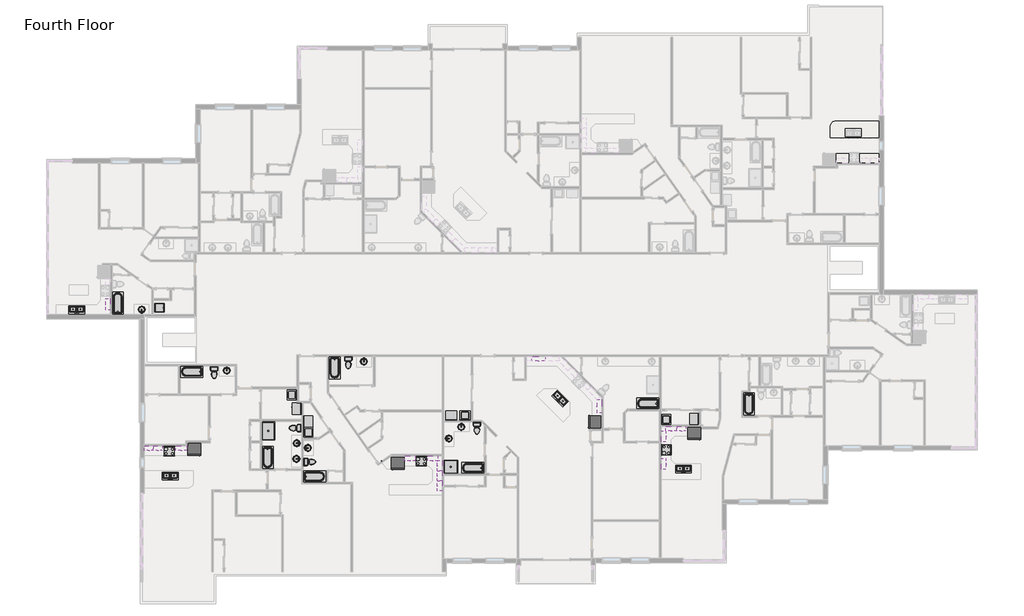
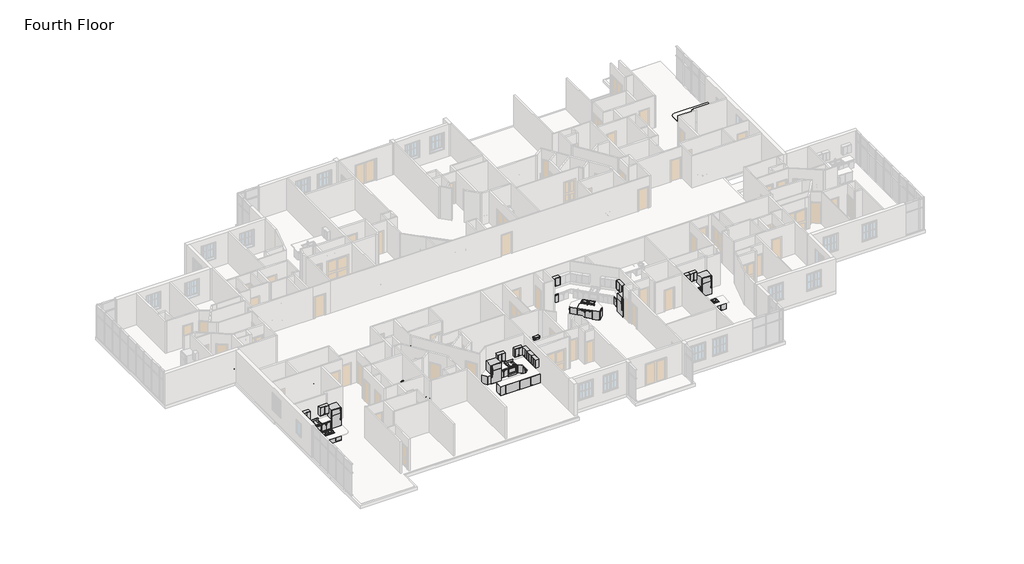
# One storey, part 14 of 17: 63 furniture elements, 27 flow terminals, 16 proxies, 2 slabs.
"""IFC4 building model written with IfcOpenShell, lengths in millimetres."""

from ifc_helpers import new_model, si_unit, point, frame, frame_2d, origin, place, context, project, spatial, polyline, circle_curve, trimmed, segment, composite_curve, outline, extrude, transform, mapped, element, save
from components import proxy_6b4a07a9, proxy_fbb4c072, proxy_93150df1, proxy_9109806d, proxy_718fa39f, proxy_f3e01b1d, flow_terminal_54cced83, flow_terminal_5dba0d75, flow_terminal_a53be723, flow_terminal_d49f872f, toilet_domestic_3d_toilet_domestic_3d_f7549cf7, toilet_domestic_3d_toilet_domestic_3d_183bbd19, tub_rectangular_3d_tub_rectangular_3d_72a4d900, tub_rectangular_3d_tub_rectangular_3d_cbc2c449, furniture_0fc2bd2a, furniture_337523c0, furniture_6e8794dd, furniture_07bc9410, furniture_6ace90bf, furniture_b282fead, furniture_6a014568, furniture_338da5bd, furniture_b74d3f52, furniture_7de88fd5, furniture_695a55eb, furniture_b6fbc004, furniture_b4094f2d, furniture_07c0da44, furniture_bfd559e3, base_cabinet_filler_base_cabinet_filler_dff9ed13, base_cabinet_filler_base_cabinet_filler_01d9e414, base_cabinet_filler_base_cabinet_filler_890d7b95, base_cabinet_filler_base_cabinet_filler_ec835e29, base_cabinet_filler_base_cabinet_filler_83579e99, base_cabinet_filler_base_cabinet_filler_783ad0b1, base_cabinet_filler_base_cabinet_filler_ca2a3ea1, furniture_de2c603d, furniture_a8c34398, furniture_09d05a5b, furniture_b1f16c95, furniture_c6a3367d, furniture_9117db5d, furniture_b34976c1

model = new_model("IFC4")

# Units and contexts
model_context = context("Model", 3, world=origin())
ifc_project = project(units=[si_unit("LENGTHUNIT", "METRE", prefix="MILLI")], contexts=[model_context])

# Site, building, storey
site = spatial("IfcSite", under=ifc_project)
building = spatial("IfcBuilding", under=site)
storey = spatial("IfcBuildingStorey", under=building, Name="Fourth Floor", Elevation=9144.0)

# Proxies
placement = place(None, origin())
proxy_shape = proxy_6b4a07a9(model_context)
element("IfcBuildingElementProxy", 1, Name="Dryer : 30\" x 25\" x 35\"", ObjectType="Dryer : 30\" x 25\" x 35\"", at=placement, inside=storey, context=model_context, shape_type="MappedRepresentation", body=[
    mapped(proxy_shape, transform((44173.5487851, -8537.825475, 9144.0), x_axis=(0.0, -1.0, 0.0), y_axis=(1.0, 0.0, 0.0), z_axis=(0.0, 0.0, 1.0))),
])
element("IfcBuildingElementProxy", 2, Name="Dryer : 30\" x 25\" x 35\"", ObjectType="Dryer : 30\" x 25\" x 35\"", at=placement, inside=storey, context=model_context, shape_type="MappedRepresentation", body=[
    mapped(proxy_shape, transform((28406.7740425, -8419.0812648, 9144.0), x_axis=(-1.0, 0.0, 0.0), y_axis=(0.0, -1.0, 0.0), z_axis=(0.0, 0.0, 1.0))),
])
element("IfcBuildingElementProxy", 3, Name="Dryer : 30\" x 25\" x 35\"", ObjectType="Dryer : 30\" x 25\" x 35\"", at=placement, inside=storey, context=model_context, shape_type="MappedRepresentation", body=[
    mapped(proxy_shape, transform((18584.1801376, -9524.4003876, 9144.0), x_axis=(0.0, 1.0, 0.0), y_axis=(-1.0, 0.0, 0.0), z_axis=(0.0, 0.0, 1.0))),
])
element("IfcBuildingElementProxy", 4, Name="Dryer : 30\" x 25\" x 35\"", ObjectType="Dryer : 30\" x 25\" x 35\"", at=placement, inside=storey, context=model_context, shape_type="MappedRepresentation", body=[
    mapped(proxy_shape, transform((17205.55813, -7837.3845163, 9144.0), x_axis=(0.0, -1.0, 0.0), y_axis=(1.0, 0.0, 0.0), z_axis=(0.0, 0.0, 1.0))),
])
proxy_2_shape = proxy_fbb4c072(model_context)
element("IfcBuildingElementProxy", 5, Name="Range : 30\" x 26\"", ObjectType="Range : 30\" x 26\"", at=placement, inside=storey, context=model_context, shape_type="MappedRepresentation", body=[
    mapped(proxy_2_shape, transform((8484.0058728, -11454.5493344, 9144.0), x_axis=(1.0, 0.0, 0.0), y_axis=(0.0, 1.0, 0.0), z_axis=(0.0, 0.0, 1.0))),
])
element("IfcBuildingElementProxy", 6, Name="Range : 30\" x 26\"", ObjectType="Range : 30\" x 26\"", at=placement, inside=storey, context=model_context, shape_type="MappedRepresentation", body=[
    mapped(proxy_2_shape, transform((25568.0760465, -12129.3236347, 9144.0), x_axis=(1.0, 0.0, 0.0), y_axis=(0.0, 1.0, 0.0), z_axis=(0.0, 0.0, 1.0))),
])
element("IfcBuildingElementProxy", 7, Name="Range : 30\" x 26\"", ObjectType="Range : 30\" x 26\"", at=placement, inside=storey, context=model_context, shape_type="MappedRepresentation", body=[
    mapped(proxy_2_shape, transform((42884.6470292, -11433.5876998, 9144.0), x_axis=(0.0, 1.0, 0.0), y_axis=(-1.0, 0.0, 0.0), z_axis=(0.0, 0.0, 1.0))),
])
proxy_3_shape = proxy_93150df1(model_context)
element("IfcBuildingElementProxy", 8, Name="Refrigerator : 35\" x 32\" LH", ObjectType="Refrigerator : 35\" x 32\" LH", at=placement, inside=storey, context=model_context, shape_type="MappedRepresentation", body=[
    mapped(proxy_3_shape, transform((24373.0696169, -11939.5714882, 9144.0), x_axis=(1.0, 0.0, 0.0), y_axis=(0.0, 1.0, 0.0), z_axis=(0.0, 0.0, 1.0))),
])
proxy_4_shape = proxy_9109806d(model_context)
element("IfcBuildingElementProxy", 9, Name="Refrigerator : 35\" x 32\" RH", ObjectType="Refrigerator : 35\" x 32\" RH", at=placement, inside=storey, context=model_context, shape_type="MappedRepresentation", body=[
    mapped(proxy_4_shape, transform((10565.2183728, -10998.1775997, 9144.0), x_axis=(1.0, 0.0, 0.0), y_axis=(0.0, 1.0, 0.0), z_axis=(0.0, 0.0, 1.0))),
])
element("IfcBuildingElementProxy", 10, Name="Refrigerator : 35\" x 32\" RH", ObjectType="Refrigerator : 35\" x 32\" RH", at=placement, inside=storey, context=model_context, shape_type="MappedRepresentation", body=[
    mapped(proxy_4_shape, transform((37739.4505062, -9160.9400492, 9144.0), x_axis=(-0.0020172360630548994, -0.9999979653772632, 0.0), y_axis=(0.9999979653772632, -0.0020172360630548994, 0.0), z_axis=(0.0, 0.0, 1.0))),
])
element("IfcBuildingElementProxy", 11, Name="Refrigerator : 35\" x 32\" RH", ObjectType="Refrigerator : 35\" x 32\" RH", at=placement, inside=storey, context=model_context, shape_type="MappedRepresentation", body=[
    mapped(proxy_4_shape, transform((44469.7001082, -9909.0410777, 9144.0), x_axis=(1.0, 0.0, 0.0), y_axis=(0.0, 1.0, 0.0), z_axis=(0.0, 0.0, 1.0))),
])
proxy_5_shape = proxy_718fa39f(model_context)
element("IfcBuildingElementProxy", 12, Name="Washer : 27\" x 25\" x 35\"", ObjectType="Washer : 27\" x 25\" x 35\"", at=placement, inside=storey, context=model_context, shape_type="MappedRepresentation", body=[
    mapped(proxy_5_shape, transform((42820.896594, -9415.6051683, 9144.0), x_axis=(0.0, 1.0, 0.0), y_axis=(-1.0, 0.0, 0.0), z_axis=(0.0, 0.0, 1.0))),
])
element("IfcBuildingElementProxy", 13, Name="Washer : 27\" x 25\" x 35\"", ObjectType="Washer : 27\" x 25\" x 35\"", at=placement, inside=storey, context=model_context, shape_type="MappedRepresentation", body=[
    mapped(proxy_5_shape, transform((29345.0797218, -8454.5927038, 9144.0), x_axis=(-1.0, 0.0, 0.0), y_axis=(0.0, -1.0, 0.0), z_axis=(0.0, 0.0, 1.0))),
])
element("IfcBuildingElementProxy", 14, Name="Washer : 27\" x 25\" x 35\"", ObjectType="Washer : 27\" x 25\" x 35\"", at=placement, inside=storey, context=model_context, shape_type="MappedRepresentation", body=[
    mapped(proxy_5_shape, transform((16924.7421343, -6896.1954628, 9144.0), x_axis=(0.0, -1.0, 0.0), y_axis=(1.0, 0.0, 0.0), z_axis=(0.0, 0.0, 1.0))),
])
element("IfcBuildingElementProxy", 15, Name="Washer : 27\" x 25\" x 35\"", ObjectType="Washer : 27\" x 25\" x 35\"", at=placement, inside=storey, context=model_context, shape_type="MappedRepresentation", body=[
    mapped(proxy_5_shape, transform((18548.6686985, -10291.5635078, 9144.0), x_axis=(0.0, 1.0, 0.0), y_axis=(-1.0, 0.0, 0.0), z_axis=(0.0, 0.0, 1.0))),
])
proxy_6_shape = proxy_f3e01b1d(model_context)
element("IfcBuildingElementProxy", 16, Name="Washer_Dryer_Combo : 24\"", ObjectType="Washer_Dryer_Combo : 24\"", at=placement, inside=storey, context=model_context, shape_type="MappedRepresentation", body=[
    mapped(proxy_6_shape, transform((7781.763642, -1399.896226, 9144.0), x_axis=(0.0, 1.0, 0.0), y_axis=(-1.0, 0.0, 0.0), z_axis=(0.0, 0.0, 1.0))),
])

# Flow terminals
flow_terminal_shape = flow_terminal_54cced83(model_context)
element("IfcFlowTerminal", 17, ObjectType="Shower Base-3D : 36\" x 36\"", at=placement, inside=storey, context=model_context, shape_type="MappedRepresentation", body=[
    mapped(flow_terminal_shape, transform((27964.2865862, -12199.1736347, 9144.0), x_axis=(-1.0, 0.0, 0.0), y_axis=(0.0, -1.0, 0.0), z_axis=(0.0, 0.0, 1.0))),
])
flow_terminal_2_shape = flow_terminal_5dba0d75(model_context)
element("IfcFlowTerminal", 18, ObjectType="Shower Base-3D : 48\" x 34\"", at=placement, inside=storey, context=model_context, shape_type="MappedRepresentation", body=[
    mapped(flow_terminal_2_shape, transform((15583.4691338, -9765.9826248, 9144.0), x_axis=(0.0, -1.0, 0.0), y_axis=(1.0, 0.0, 0.0), z_axis=(0.0, 0.0, 1.0))),
])
flow_terminal_3_shape = flow_terminal_a53be723(model_context)
element("IfcFlowTerminal", 19, ObjectType="Sink Kitchen-Double : 42\" x 21\"", at=placement, inside=storey, context=model_context, shape_type="MappedRepresentation", body=[
    mapped(flow_terminal_3_shape, transform((2610.3896329, -1539.4234679, 9144.0), x_axis=(-1.0, 0.0, 0.0), y_axis=(0.0, -1.0, 0.0), z_axis=(0.0, 0.0, 1.0))),
])
element("IfcFlowTerminal", 20, ObjectType="Sink Kitchen-Double : 42\" x 21\"", at=placement, inside=storey, context=model_context, shape_type="MappedRepresentation", body=[
    mapped(flow_terminal_3_shape, transform((8952.0802897, -12819.6612346, 9144.0), x_axis=(-1.0, 0.0, 0.0), y_axis=(0.0, -1.0, 0.0), z_axis=(0.0, 0.0, 1.0))),
])
element("IfcFlowTerminal", 21, ObjectType="Sink Kitchen-Double : 42\" x 21\"", at=placement, inside=storey, context=model_context, shape_type="MappedRepresentation", body=[
    mapped(flow_terminal_3_shape, transform((35369.4238071, -7586.7342025, 9144.0), x_axis=(-0.7071067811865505, 0.7071067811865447, 0.0), y_axis=(-0.7071067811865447, -0.7071067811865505, 0.0), z_axis=(0.0, 0.0, 1.0))),
])
element("IfcFlowTerminal", 22, ObjectType="Sink Kitchen-Double : 42\" x 21\"", at=placement, inside=storey, context=model_context, shape_type="MappedRepresentation", body=[
    mapped(flow_terminal_3_shape, transform((43757.5862697, -12345.6422987, 9144.0), x_axis=(-1.0, 0.0, 0.0), y_axis=(0.0, -1.0, 0.0), z_axis=(0.0, 0.0, 1.0))),
])
flow_terminal_4_shape = flow_terminal_d49f872f(model_context)
element("IfcFlowTerminal", 23, ObjectType="Sink Vanity-Round : 19\" x 19\"", at=placement, inside=storey, context=model_context, shape_type="MappedRepresentation", body=[
    mapped(flow_terminal_4_shape, transform((7095.9779114, -1446.5547276, 9144.0), x_axis=(-1.0, 0.0, 0.0), y_axis=(0.0, -1.0, 0.0), z_axis=(0.0, 0.0, 1.0))),
])
element("IfcFlowTerminal", 24, ObjectType="Sink Vanity-Round : 19\" x 19\"", at=placement, inside=storey, context=model_context, shape_type="MappedRepresentation", body=[
    mapped(flow_terminal_4_shape, transform((12671.2282401, -5751.7512482, 9144.0), x_axis=(1.0, 0.0, 0.0), y_axis=(0.0, 1.0, 0.0), z_axis=(0.0, 0.0, 1.0))),
])
element("IfcFlowTerminal", 25, ObjectType="Sink Vanity-Round : 19\" x 19\"", at=placement, inside=storey, context=model_context, shape_type="MappedRepresentation", body=[
    mapped(flow_terminal_4_shape, transform((17420.7936513, -10494.2975939, 9144.0), x_axis=(0.0, -1.0, 0.0), y_axis=(1.0, 0.0, 0.0), z_axis=(0.0, 0.0, 1.0))),
])
element("IfcFlowTerminal", 26, ObjectType="Sink Vanity-Round : 19\" x 19\"", at=placement, inside=storey, context=model_context, shape_type="MappedRepresentation", body=[
    mapped(flow_terminal_4_shape, transform((17409.016646, -11561.0975939, 9144.0), x_axis=(0.0, -1.0, 0.0), y_axis=(1.0, 0.0, 0.0), z_axis=(0.0, 0.0, 1.0))),
])
element("IfcFlowTerminal", 27, ObjectType="Sink Vanity-Round : 19\" x 19\"", at=placement, inside=storey, context=model_context, shape_type="MappedRepresentation", body=[
    mapped(flow_terminal_4_shape, transform((21972.1515274, -5140.3059377, 9144.0), x_axis=(1.0, 0.0, 0.0), y_axis=(0.0, 1.0, 0.0), z_axis=(0.0, 0.0, 1.0))),
])
element("IfcFlowTerminal", 28, ObjectType="Sink Vanity-Round : 19\" x 19\"", at=placement, inside=storey, context=model_context, shape_type="MappedRepresentation", body=[
    mapped(flow_terminal_4_shape, transform((27911.2708925, -10375.2194838, 9144.0), x_axis=(0.001247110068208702, 0.9999992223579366, 0.0), y_axis=(-0.9999992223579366, 0.001247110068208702, 0.0), z_axis=(0.0, 0.0, 1.0))),
])
element("IfcFlowTerminal", 29, ObjectType="Sink Vanity-Round : 19\" x 19\"", at=placement, inside=storey, context=model_context, shape_type="MappedRepresentation", body=[
    mapped(flow_terminal_4_shape, transform((28570.2652609, -9561.5358358, 9144.0), x_axis=(0.9999968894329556, -0.0024942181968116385, 0.0), y_axis=(0.0024942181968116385, 0.9999968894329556, 0.0), z_axis=(0.0, 0.0, 1.0))),
])
element("IfcFlowTerminal", 30, ObjectType="Sink Vanity-Round : 19\" x 19\"", at=placement, inside=storey, context=model_context, shape_type="MappedRepresentation", body=[
    mapped(flow_terminal_4_shape, transform((18352.0332752, -11016.4921873, 9144.0), x_axis=(0.0, 1.0, 0.0), y_axis=(-1.0, 0.0, 0.0), z_axis=(0.0, 0.0, 1.0))),
])
toilet_domestic_3d_toilet_domestic_3d_shape = toilet_domestic_3d_toilet_domestic_3d_f7549cf7(model_context)
toilet_domestic_3d_toilet_domestic_3d_2_shape = toilet_domestic_3d_toilet_domestic_3d_183bbd19(model_context)
element("IfcFlowTerminal", 31, ObjectType="Toilet-Domestic-3D : Toilet-Domestic-3D", at=placement, inside=storey, context=model_context, shape_type="MappedRepresentation", body=[
    mapped(toilet_domestic_3d_toilet_domestic_3d_shape, transform((11916.3561509, -5905.1826248, 9144.0), x_axis=(1.0, 0.0, 0.0), y_axis=(0.0, 1.0, 0.0), z_axis=(0.0, 0.0, 1.0))),
    mapped(toilet_domestic_3d_toilet_domestic_3d_2_shape, transform((11916.3561509, -5905.1826248, 9144.0), x_axis=(1.0, 0.0, 0.0), y_axis=(0.0, 1.0, 0.0), z_axis=(0.0, 0.0, 1.0))),
])
element("IfcFlowTerminal", 32, ObjectType="Toilet-Domestic-3D : Toilet-Domestic-3D", at=placement, inside=storey, context=model_context, shape_type="MappedRepresentation", body=[
    mapped(toilet_domestic_3d_toilet_domestic_3d_shape, transform((17301.7543863, -9562.7826248, 9144.0), x_axis=(0.0, -1.0, 0.0), y_axis=(1.0, 0.0, 0.0), z_axis=(0.0, 0.0, 1.0))),
    mapped(toilet_domestic_3d_toilet_domestic_3d_2_shape, transform((17301.7543863, -9562.7826248, 9144.0), x_axis=(0.0, -1.0, 0.0), y_axis=(1.0, 0.0, 0.0), z_axis=(0.0, 0.0, 1.0))),
])
element("IfcFlowTerminal", 33, ObjectType="Toilet-Domestic-3D : Toilet-Domestic-3D", at=placement, inside=storey, context=model_context, shape_type="MappedRepresentation", body=[
    mapped(toilet_domestic_3d_toilet_domestic_3d_shape, transform((18495.5543863, -11861.2719726, 9144.0), x_axis=(0.0, 1.0, 0.0), y_axis=(-1.0, 0.0, 0.0), z_axis=(0.0, 0.0, 1.0))),
    mapped(toilet_domestic_3d_toilet_domestic_3d_2_shape, transform((18495.5543863, -11861.2719726, 9144.0), x_axis=(0.0, 1.0, 0.0), y_axis=(-1.0, 0.0, 0.0), z_axis=(0.0, 0.0, 1.0))),
])
element("IfcFlowTerminal", 34, ObjectType="Toilet-Domestic-3D : Toilet-Domestic-3D", at=placement, inside=storey, context=model_context, shape_type="MappedRepresentation", body=[
    mapped(toilet_domestic_3d_toilet_domestic_3d_shape, transform((21010.1543863, -5232.0826248, 9144.0), x_axis=(1.0, 0.0, 0.0), y_axis=(0.0, 1.0, 0.0), z_axis=(0.0, 0.0, 1.0))),
    mapped(toilet_domestic_3d_toilet_domestic_3d_2_shape, transform((21010.1543863, -5232.0826248, 9144.0), x_axis=(1.0, 0.0, 0.0), y_axis=(0.0, 1.0, 0.0), z_axis=(0.0, 0.0, 1.0))),
])
element("IfcFlowTerminal", 35, ObjectType="Toilet-Domestic-3D : Toilet-Domestic-3D", at=placement, inside=storey, context=model_context, shape_type="MappedRepresentation", body=[
    mapped(toilet_domestic_3d_toilet_domestic_3d_shape, transform((29733.3816535, -9682.6542097, 9144.0), x_axis=(1.0, 0.0, 0.0), y_axis=(0.0, 1.0, 0.0), z_axis=(0.0, 0.0, 1.0))),
    mapped(toilet_domestic_3d_toilet_domestic_3d_2_shape, transform((29733.3816535, -9682.6542097, 9144.0), x_axis=(1.0, 0.0, 0.0), y_axis=(0.0, 1.0, 0.0), z_axis=(0.0, 0.0, 1.0))),
])
tub_rectangular_3d_tub_rectangular_3d_shape = tub_rectangular_3d_tub_rectangular_3d_72a4d900(model_context)
element("IfcFlowTerminal", 36, ObjectType="Tub-Rectangular-3D : Tub-Rectangular-3D", at=placement, inside=storey, context=model_context, shape_type="MappedRepresentation", body=[
    mapped(tub_rectangular_3d_tub_rectangular_3d_shape, transform((47733.9460269, -8284.6757706, 9144.0), x_axis=(0.0, -1.0, 0.0), y_axis=(1.0, 0.0, 0.0), z_axis=(0.0, 0.0, 1.0))),
])
element("IfcFlowTerminal", 37, ObjectType="Tub-Rectangular-3D : Tub-Rectangular-3D", at=placement, inside=storey, context=model_context, shape_type="MappedRepresentation", body=[
    mapped(tub_rectangular_3d_tub_rectangular_3d_shape, transform((19641.0094272, -5812.794765, 9144.0), x_axis=(0.0, -1.0, 0.0), y_axis=(1.0, 0.0, 0.0), z_axis=(0.0, 0.0, 1.0))),
])
element("IfcFlowTerminal", 38, ObjectType="Tub-Rectangular-3D : Tub-Rectangular-3D", at=placement, inside=storey, context=model_context, shape_type="MappedRepresentation", body=[
    mapped(tub_rectangular_3d_tub_rectangular_3d_shape, transform((19051.8674743, -13293.3204597, 9144.0), x_axis=(1.0, 0.0, 0.0), y_axis=(0.0, 1.0, 0.0), z_axis=(0.0, 0.0, 1.0))),
])
element("IfcFlowTerminal", 39, ObjectType="Tub-Rectangular-3D : Tub-Rectangular-3D", at=placement, inside=storey, context=model_context, shape_type="MappedRepresentation", body=[
    mapped(tub_rectangular_3d_tub_rectangular_3d_shape, transform((15100.67709, -11904.7523031, 9144.0), x_axis=(0.0, -1.0, 0.0), y_axis=(1.0, 0.0, 0.0), z_axis=(0.0, 0.0, 1.0))),
])
element("IfcFlowTerminal", 40, ObjectType="Tub-Rectangular-3D : Tub-Rectangular-3D", at=placement, inside=storey, context=model_context, shape_type="MappedRepresentation", body=[
    mapped(tub_rectangular_3d_tub_rectangular_3d_shape, transform((10041.086734, -5294.5871067, 9144.0), x_axis=(-1.0, 0.0, 0.0), y_axis=(0.0, -1.0, 0.0), z_axis=(0.0, 0.0, 1.0))),
])
tub_rectangular_3d_tub_rectangular_3d_2_shape = tub_rectangular_3d_tub_rectangular_3d_cbc2c449(model_context)
element("IfcFlowTerminal", 41, ObjectType="Tub-Rectangular-3D : Tub-Rectangular-3D", at=placement, inside=storey, context=model_context, shape_type="MappedRepresentation", body=[
    mapped(tub_rectangular_3d_tub_rectangular_3d_2_shape, transform((4937.8503923, -742.3159003, 9144.0), x_axis=(0.0, 1.0, 0.0), y_axis=(-1.0, 0.0, 0.0), z_axis=(0.0, 0.0, 1.0))),
])
element("IfcFlowTerminal", 42, ObjectType="Tub-Rectangular-3D : Tub-Rectangular-3D", at=placement, inside=storey, context=model_context, shape_type="MappedRepresentation", body=[
    mapped(tub_rectangular_3d_tub_rectangular_3d_2_shape, transform((29107.1010669, -12707.1736347, 9144.0), x_axis=(-1.0, 0.0, 0.0), y_axis=(0.0, -1.0, 0.0), z_axis=(0.0, 0.0, 1.0))),
])
element("IfcFlowTerminal", 43, ObjectType="Tub-Rectangular-3D : Tub-Rectangular-3D", at=placement, inside=storey, context=model_context, shape_type="MappedRepresentation", body=[
    mapped(tub_rectangular_3d_tub_rectangular_3d_2_shape, transform((40980.2940605, -8335.220689, 9144.0), x_axis=(-1.0, 0.0, 0.0), y_axis=(0.0, -1.0, 0.0), z_axis=(0.0, 0.0, 1.0))),
])

# Furniture
furniture_shape = furniture_0fc2bd2a(model_context)
element("IfcFurniture", 44, ObjectType="Base Cabinet-Single Door & Drawer : 15\"'", at=placement, inside=storey, context=model_context, shape_type="MappedRepresentation", body=[
    mapped(furniture_shape, transform((7393.028754, -13101.4066357, 9144.0), x_axis=(-1.0, 0.0, 0.0), y_axis=(0.0, -1.0, 0.0), z_axis=(0.0, 0.0, 1.0))),
])
furniture_2_shape = furniture_337523c0(model_context)
element("IfcFurniture", 45, ObjectType="Base Cabinet-Single Door & Drawer : 12\"", at=placement, inside=storey, context=model_context, shape_type="MappedRepresentation", body=[
    mapped(furniture_2_shape, transform((42224.2470292, -10500.4499949, 9144.0), x_axis=(0.0, -1.0, 0.0), y_axis=(1.0, 0.0, 0.0), z_axis=(0.0, 0.0, 1.0))),
])
furniture_3_shape = furniture_6e8794dd(model_context)
element("IfcFurniture", 46, ObjectType="Base Cabinet-Single Door & Drawer : 12\"", at=placement, inside=storey, context=model_context, shape_type="MappedRepresentation", body=[
    mapped(furniture_3_shape, transform((4880.7003923, -765.2085211, 9144.0), x_axis=(0.0, -1.0, 0.0), y_axis=(1.0, 0.0, 0.0), z_axis=(0.0, 0.0, 1.0))),
])
element("IfcFurniture", 47, ObjectType="Base Cabinet-Single Door & Drawer : 12\"", at=placement, inside=storey, context=model_context, shape_type="MappedRepresentation", body=[
    mapped(furniture_3_shape, transform((42224.2470292, -11604.7254047, 9144.0), x_axis=(0.0, 1.0, 0.0), y_axis=(-1.0, 0.0, 0.0), z_axis=(0.0, 0.0, 1.0))),
])
furniture_4_shape = furniture_07bc9410(model_context)
element("IfcFurniture", 48, ObjectType="Base Cabinet-Single Door & Drawer : 18\"", at=placement, inside=storey, context=model_context, shape_type="MappedRepresentation", body=[
    mapped(furniture_4_shape, transform((7423.2435778, -10772.1368662, 9144.0), x_axis=(-1.0, 0.0, 0.0), y_axis=(0.0, -1.0, 0.0), z_axis=(0.0, 0.0, 1.0))),
])
furniture_5_shape = furniture_6ace90bf(model_context)
element("IfcFurniture", 49, ObjectType="Base Cabinet-Single Door & Drawer : 18\"", at=placement, inside=storey, context=model_context, shape_type="MappedRepresentation", body=[
    mapped(furniture_5_shape, transform((9793.328754, -13101.4066357, 9144.0), x_axis=(-1.0, 0.0, 0.0), y_axis=(0.0, -1.0, 0.0), z_axis=(0.0, 0.0, 1.0))),
])
element("IfcFurniture", 50, ObjectType="Base Cabinet-Single Door & Drawer : 18\"", at=placement, inside=storey, context=model_context, shape_type="MappedRepresentation", body=[
    mapped(furniture_5_shape, transform((24038.1263728, -14082.7941728, 9144.0), x_axis=(-1.0, 0.0, 0.0), y_axis=(0.0, -1.0, 0.0), z_axis=(0.0, 0.0, 1.0))),
])
furniture_6_shape = furniture_b282fead(model_context)
element("IfcFurniture", 51, ObjectType="Base Cabinet-Single Door & Drawer : 21\"", at=placement, inside=storey, context=model_context, shape_type="MappedRepresentation", body=[
    mapped(furniture_6_shape, transform((44636.9347341, -12652.7876998, 9144.0), x_axis=(-1.0, 0.0, 0.0), y_axis=(0.0, -1.0, 0.0), z_axis=(0.0, 0.0, 1.0))),
])
furniture_7_shape = furniture_6a014568(model_context)
element("IfcFurniture", 52, ObjectType="Base Cabinet-Single Door & Drawer : 24\"", at=placement, inside=storey, context=model_context, shape_type="MappedRepresentation", body=[
    mapped(furniture_7_shape, transform((35343.4218314, -8452.6528289, 9144.0), x_axis=(0.7071067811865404, 0.7071067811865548, 0.0), y_axis=(-0.7071067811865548, 0.7071067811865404, 0.0), z_axis=(0.0, 0.0, 1.0))),
])
element("IfcFurniture", 53, ObjectType="Base Cabinet-Single Door & Drawer : 24\"", at=placement, inside=storey, context=model_context, shape_type="MappedRepresentation", body=[
    mapped(furniture_7_shape, transform((34507.8163602, -7564.0491249, 9144.0), x_axis=(-0.7071067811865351, -0.70710678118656, 0.0), y_axis=(0.70710678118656, -0.7071067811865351, 0.0), z_axis=(0.0, 0.0, 1.0))),
])
furniture_8_shape = furniture_338da5bd(model_context)
element("IfcFurniture", 54, ObjectType="Base Cabinet-Double Door & 2 Drawer : 30\"", at=placement, inside=storey, context=model_context, shape_type="MappedRepresentation", body=[
    mapped(furniture_8_shape, transform((7964.528754, -13101.4066357, 9144.0), x_axis=(-1.0, 0.0, 0.0), y_axis=(0.0, -1.0, 0.0), z_axis=(0.0, 0.0, 1.0))),
])
element("IfcFurniture", 55, ObjectType="Base Cabinet-Double Door & 2 Drawer : 30\"", at=placement, inside=storey, context=model_context, shape_type="MappedRepresentation", body=[
    mapped(furniture_8_shape, transform((27373.7365862, -12755.9564679, 9144.0), x_axis=(0.0, -1.0, 0.0), y_axis=(1.0, 0.0, 0.0), z_axis=(0.0, 0.0, 1.0))),
])
element("IfcFurniture", 56, ObjectType="Base Cabinet-Double Door & 2 Drawer : 30\"", at=placement, inside=storey, context=model_context, shape_type="MappedRepresentation", body=[
    mapped(furniture_8_shape, transform((25173.481912, -11468.9236347, 9144.0), x_axis=(1.0, 0.0, 0.0), y_axis=(0.0, 1.0, 0.0), z_axis=(0.0, 0.0, 1.0))),
])
furniture_9_shape = furniture_b74d3f52(model_context)
element("IfcFurniture", 57, ObjectType="Base Cabinet-Double Door & 2 Drawer : 33\"", at=placement, inside=storey, context=model_context, shape_type="MappedRepresentation", body=[
    mapped(furniture_9_shape, transform((8083.6435778, -10772.1368662, 9144.0), x_axis=(-1.0, 0.0, 0.0), y_axis=(0.0, -1.0, 0.0), z_axis=(0.0, 0.0, 1.0))),
])
furniture_10_shape = furniture_7de88fd5(model_context)
element("IfcFurniture", 58, ObjectType="Base Cabinet-Double Door & 2 Drawer : 33\"", at=placement, inside=storey, context=model_context, shape_type="MappedRepresentation", body=[
    mapped(furniture_10_shape, transform((9646.3681679, -10772.1368662, 9144.0), x_axis=(1.0, 0.0, 0.0), y_axis=(0.0, 1.0, 0.0), z_axis=(0.0, 0.0, 1.0))),
])
element("IfcFurniture", 59, ObjectType="Base Cabinet-Double Door & 2 Drawer : 33\"", at=placement, inside=storey, context=model_context, shape_type="MappedRepresentation", body=[
    mapped(furniture_10_shape, transform((43539.0093243, -9452.3876998, 9144.0), x_axis=(1.0, 0.0, 0.0), y_axis=(0.0, 1.0, 0.0), z_axis=(0.0, 0.0, 1.0))),
])
furniture_11_shape = furniture_695a55eb(model_context)
element("IfcFurniture", 60, ObjectType="Base Cabinet-Double Door & 2 Drawer : 36\"", at=placement, inside=storey, context=model_context, shape_type="MappedRepresentation", body=[
    mapped(furniture_11_shape, transform((1661.5626874, -1846.568869, 9144.0), x_axis=(1.0, 0.0, 0.0), y_axis=(0.0, 1.0, 0.0), z_axis=(0.0, 0.0, 1.0))),
])
element("IfcFurniture", 61, ObjectType="Base Cabinet-Double Door & 2 Drawer : 36\"", at=placement, inside=storey, context=model_context, shape_type="MappedRepresentation", body=[
    mapped(furniture_11_shape, transform((2575.9626874, -1846.568869, 9144.0), x_axis=(1.0, 0.0, 0.0), y_axis=(0.0, 1.0, 0.0), z_axis=(0.0, 0.0, 1.0))),
])
element("IfcFurniture", 62, ObjectType="Base Cabinet-Double Door & 2 Drawer : 36\"", at=placement, inside=storey, context=model_context, shape_type="MappedRepresentation", body=[
    mapped(furniture_11_shape, transform((3490.3626874, -1846.568869, 9144.0), x_axis=(1.0, 0.0, 0.0), y_axis=(0.0, 1.0, 0.0), z_axis=(0.0, 0.0, 1.0))),
])
furniture_12_shape = furniture_b6fbc004(model_context)
element("IfcFurniture", 63, ObjectType="Base Cabinet-Double Door & 2 Drawer : 36\"", at=placement, inside=storey, context=model_context, shape_type="MappedRepresentation", body=[
    mapped(furniture_12_shape, transform((33534.2589917, -4708.5417963, 9144.0), x_axis=(1.0, 0.0, 0.0), y_axis=(0.0, 1.0, 0.0), z_axis=(0.0, 0.0, 1.0))),
])
element("IfcFurniture", 64, ObjectType="Base Cabinet-Double Door & 2 Drawer : 36\"", at=placement, inside=storey, context=model_context, shape_type="MappedRepresentation", body=[
    mapped(furniture_12_shape, transform((38191.5400155, -8246.5337163, 9144.0), x_axis=(0.0, -1.0, 0.0), y_axis=(1.0, 0.0, 0.0), z_axis=(0.0, 0.0, 1.0))),
])
furniture_13_shape = furniture_b4094f2d(model_context)
element("IfcFurniture", 65, ObjectType="Base Cabinet-Double Door & 2 Drawer : 39\"", at=placement, inside=storey, context=model_context, shape_type="MappedRepresentation", body=[
    mapped(furniture_13_shape, transform((25982.7742911, -14082.7941728, 9144.0), x_axis=(-1.0, 0.0, 0.0), y_axis=(0.0, -1.0, 0.0), z_axis=(0.0, 0.0, 1.0))),
])
furniture_14_shape = furniture_07c0da44(model_context)
element("IfcFurniture", 66, ObjectType="Base Cabinet-Double Door & 2 Drawer : 48\"", at=placement, inside=storey, context=model_context, shape_type="MappedRepresentation", body=[
    mapped(furniture_14_shape, transform((8955.128754, -13101.4066357, 9144.0), x_axis=(-1.0, 0.0, 0.0), y_axis=(0.0, -1.0, 0.0), z_axis=(0.0, 0.0, 1.0))),
])
element("IfcFurniture", 67, ObjectType="Base Cabinet-Double Door & 2 Drawer : 48\"", at=placement, inside=storey, context=model_context, shape_type="MappedRepresentation", body=[
    mapped(furniture_14_shape, transform((24876.3263728, -14082.7941728, 9144.0), x_axis=(-1.0, 0.0, 0.0), y_axis=(0.0, -1.0, 0.0), z_axis=(0.0, 0.0, 1.0))),
])
element("IfcFurniture", 68, ObjectType="Base Cabinet-Double Door & 2 Drawer : 48\"", at=placement, inside=storey, context=model_context, shape_type="MappedRepresentation", body=[
    mapped(furniture_14_shape, transform((35154.3948009, -7806.0743882, 9144.0), x_axis=(-0.7071067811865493, 0.7071067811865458, 0.0), y_axis=(-0.7071067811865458, -0.7071067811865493, 0.0), z_axis=(0.0, 0.0, 1.0))),
])
element("IfcFurniture", 69, ObjectType="Base Cabinet-Double Door & 2 Drawer : 48\"", at=placement, inside=storey, context=model_context, shape_type="MappedRepresentation", body=[
    mapped(furniture_14_shape, transform((35127.8956845, -7779.5752718, 9144.0), x_axis=(0.7071067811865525, -0.7071067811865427, 0.0), y_axis=(0.7071067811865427, 0.7071067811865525, 0.0), z_axis=(0.0, 0.0, 1.0))),
])
element("IfcFurniture", 70, ObjectType="Base Cabinet-Double Door & 2 Drawer : 48\"", at=placement, inside=storey, context=model_context, shape_type="MappedRepresentation", body=[
    mapped(furniture_14_shape, transform((43760.6347341, -12652.7876998, 9144.0), x_axis=(-1.0, 0.0, 0.0), y_axis=(0.0, -1.0, 0.0), z_axis=(0.0, 0.0, 1.0))),
])
furniture_15_shape = furniture_bfd559e3(model_context)
element("IfcFurniture", 71, ObjectType="Base Cabinet-Corner Unit-Angled : 36\"", at=placement, inside=storey, context=model_context, shape_type="MappedRepresentation", body=[
    mapped(furniture_15_shape, transform((4880.7003923, -1319.8311641, 9144.0), x_axis=(0.0, -1.0, 0.0), y_axis=(1.0, 0.0, 0.0), z_axis=(0.0, 0.0, 1.0))),
])
element("IfcFurniture", 72, ObjectType="Base Cabinet-Corner Unit-Angled : 36\"", at=placement, inside=storey, context=model_context, shape_type="MappedRepresentation", body=[
    mapped(furniture_15_shape, transform((27373.7365862, -13556.0564679, 9144.0), x_axis=(0.0, -1.0, 0.0), y_axis=(1.0, 0.0, 0.0), z_axis=(0.0, 0.0, 1.0))),
])
element("IfcFurniture", 73, ObjectType="Base Cabinet-Corner Unit-Angled : 36\"", at=placement, inside=storey, context=model_context, shape_type="MappedRepresentation", body=[
    mapped(furniture_15_shape, transform((26846.9988812, -11468.9236347, 9144.0), x_axis=(1.0, 0.0, 0.0), y_axis=(0.0, 1.0, 0.0), z_axis=(0.0, 0.0, 1.0))),
])
element("IfcFurniture", 74, ObjectType="Base Cabinet-Corner Unit-Angled : 36\"", at=placement, inside=storey, context=model_context, shape_type="MappedRepresentation", body=[
    mapped(furniture_15_shape, transform((42224.2470292, -9979.1254047, 9144.0), x_axis=(0.0, 1.0, 0.0), y_axis=(-1.0, 0.0, 0.0), z_axis=(0.0, 0.0, 1.0))),
])
element("IfcFurniture", 75, ObjectType="Base Cabinet-Corner Unit-Angled : 36\"", at=placement, inside=storey, context=model_context, shape_type="MappedRepresentation", body=[
    mapped(furniture_15_shape, transform((42744.6347341, -12652.7876998, 9144.0), x_axis=(-1.0, 0.0, 0.0), y_axis=(0.0, -1.0, 0.0), z_axis=(0.0, 0.0, 1.0))),
])
base_cabinet_filler_base_cabinet_filler_shape = base_cabinet_filler_base_cabinet_filler_dff9ed13(model_context)
element("IfcFurniture", 76, ObjectType="Base Cabinet-Filler : Base Cabinet-Filler", at=placement, inside=storey, context=model_context, shape_type="MappedRepresentation", body=[
    mapped(base_cabinet_filler_base_cabinet_filler_shape, transform((7620.7181679, -10772.1368662, 9144.0), x_axis=(1.0, 0.0, 0.0), y_axis=(0.0, 1.0, 0.0), z_axis=(0.0, 0.0, 1.0))),
])
element("IfcFurniture", 77, ObjectType="Base Cabinet-Filler : Base Cabinet-Filler", at=placement, inside=storey, context=model_context, shape_type="MappedRepresentation", body=[
    mapped(base_cabinet_filler_base_cabinet_filler_shape, transform((27373.7365862, -13143.3064679, 9144.0), x_axis=(0.0, -1.0, 0.0), y_axis=(1.0, 0.0, 0.0), z_axis=(0.0, 0.0, 1.0))),
])
base_cabinet_filler_base_cabinet_filler_2_shape = base_cabinet_filler_base_cabinet_filler_01d9e414(model_context)
element("IfcFurniture", 78, ObjectType="Base Cabinet-Filler : Base Cabinet-Filler", at=placement, inside=storey, context=model_context, shape_type="MappedRepresentation", body=[
    mapped(base_cabinet_filler_base_cabinet_filler_2_shape, transform((10086.8994179, -10772.1368662, 9144.0), x_axis=(1.0, 0.0, 0.0), y_axis=(0.0, 1.0, 0.0), z_axis=(0.0, 0.0, 1.0))),
])
base_cabinet_filler_base_cabinet_filler_3_shape = base_cabinet_filler_base_cabinet_filler_890d7b95(model_context)
element("IfcFurniture", 79, ObjectType="Base Cabinet-Filler : Base Cabinet-Filler", at=placement, inside=storey, context=model_context, shape_type="MappedRepresentation", body=[
    mapped(base_cabinet_filler_base_cabinet_filler_3_shape, transform((26375.9686114, -11468.9236347, 9144.0), x_axis=(1.0, 0.0, 0.0), y_axis=(0.0, 1.0, 0.0), z_axis=(0.0, 0.0, 1.0))),
])
base_cabinet_filler_base_cabinet_filler_4_shape = base_cabinet_filler_base_cabinet_filler_ec835e29(model_context)
element("IfcFurniture", 80, ObjectType="Base Cabinet-Filler : Base Cabinet-Filler", at=placement, inside=storey, context=model_context, shape_type="MappedRepresentation", body=[
    mapped(base_cabinet_filler_base_cabinet_filler_4_shape, transform((27373.7365862, -12369.7711988, 9144.0), x_axis=(0.0, -1.0, 0.0), y_axis=(1.0, 0.0, 0.0), z_axis=(0.0, 0.0, 1.0))),
])
base_cabinet_filler_base_cabinet_filler_5_shape = base_cabinet_filler_base_cabinet_filler_83579e99(model_context)
element("IfcFurniture", 81, ObjectType="Base Cabinet-Filler : Base Cabinet-Filler", at=placement, inside=storey, context=model_context, shape_type="MappedRepresentation", body=[
    mapped(base_cabinet_filler_base_cabinet_filler_5_shape, transform((43985.4608638, -9452.3876998, 9144.0), x_axis=(1.0, 0.0, 0.0), y_axis=(0.0, 1.0, 0.0), z_axis=(0.0, 0.0, 1.0))),
])
base_cabinet_filler_base_cabinet_filler_6_shape = base_cabinet_filler_base_cabinet_filler_783ad0b1(model_context)
element("IfcFurniture", 82, ObjectType="Base Cabinet-Filler : Base Cabinet-Filler", at=placement, inside=storey, context=model_context, shape_type="MappedRepresentation", body=[
    mapped(base_cabinet_filler_base_cabinet_filler_6_shape, transform((23755.8937619, -11708.3436972, 9144.0), x_axis=(1.0, 0.0, 0.0), y_axis=(0.0, 1.0, 0.0), z_axis=(0.0, 0.0, 1.0))),
])
base_cabinet_filler_base_cabinet_filler_7_shape = base_cabinet_filler_base_cabinet_filler_ca2a3ea1(model_context)
element("IfcFurniture", 83, ObjectType="Base Cabinet-Filler : Base Cabinet-Filler", at=placement, inside=storey, context=model_context, shape_type="MappedRepresentation", body=[
    mapped(base_cabinet_filler_base_cabinet_filler_7_shape, transform((23926.7430816, -11693.9911948, 9144.0), x_axis=(0.5735764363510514, -0.8191520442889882, 0.0), y_axis=(0.8191520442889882, 0.5735764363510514, 0.0), z_axis=(0.0, 0.0, 1.0))),
])
furniture_16_shape = furniture_de2c603d(model_context)
element("IfcFurniture", 84, ObjectType="Upper Cabinet-Double Door-Wall : 24\"", at=placement, inside=storey, context=model_context, shape_type="MappedRepresentation", body=[
    mapped(furniture_16_shape, transform((7516.0292787, -10717.9493344, 9144.0), x_axis=(-1.0, 0.0, 0.0), y_axis=(0.0, -1.0, 0.0), z_axis=(0.0, 0.0, 1.0))),
])
element("IfcFurniture", 85, ObjectType="Upper Cabinet-Double Door-Wall : 24\"", at=placement, inside=storey, context=model_context, shape_type="MappedRepresentation", body=[
    mapped(furniture_16_shape, transform((8125.6292787, -10717.9493344, 9144.0), x_axis=(-1.0, 0.0, 0.0), y_axis=(0.0, -1.0, 0.0), z_axis=(0.0, 0.0, 1.0))),
])
element("IfcFurniture", 86, ObjectType="Upper Cabinet-Double Door-Wall : 24\"", at=placement, inside=storey, context=model_context, shape_type="MappedRepresentation", body=[
    mapped(furniture_16_shape, transform((43625.618192, -9395.2376998, 9144.0), x_axis=(-1.0, 0.0, 0.0), y_axis=(0.0, -1.0, 0.0), z_axis=(0.0, 0.0, 1.0))),
])
furniture_17_shape = furniture_a8c34398(model_context)
element("IfcFurniture", 87, ObjectType="Upper Cabinet-Double Door-Wall : 27\"", at=placement, inside=storey, context=model_context, shape_type="MappedRepresentation", body=[
    mapped(furniture_17_shape, transform((25225.457749, -11411.7736347, 9144.0), x_axis=(-1.0, 0.0, 0.0), y_axis=(0.0, -1.0, 0.0), z_axis=(0.0, 0.0, 1.0))),
])
element("IfcFurniture", 88, ObjectType="Upper Cabinet-Double Door-Wall : 27\"", at=placement, inside=storey, context=model_context, shape_type="MappedRepresentation", body=[
    mapped(furniture_17_shape, transform((26755.807749, -11411.7736347, 9144.0), x_axis=(-1.0, 0.0, 0.0), y_axis=(0.0, -1.0, 0.0), z_axis=(0.0, 0.0, 1.0))),
])
element("IfcFurniture", 89, ObjectType="Upper Cabinet-Double Door-Wall : 27\"", at=placement, inside=storey, context=model_context, shape_type="MappedRepresentation", body=[
    mapped(furniture_17_shape, transform((27430.8865862, -12146.3947975, 9144.0), x_axis=(0.0, 1.0, 0.0), y_axis=(-1.0, 0.0, 0.0), z_axis=(0.0, 0.0, 1.0))),
])
element("IfcFurniture", 90, ObjectType="Upper Cabinet-Double Door-Wall : 27\"", at=placement, inside=storey, context=model_context, shape_type="MappedRepresentation", body=[
    mapped(furniture_17_shape, transform((27430.8865862, -12832.1947975, 9144.0), x_axis=(0.0, 1.0, 0.0), y_axis=(-1.0, 0.0, 0.0), z_axis=(0.0, 0.0, 1.0))),
])
furniture_18_shape = furniture_09d05a5b(model_context)
element("IfcFurniture", 91, ObjectType="Upper Cabinet-Double Door-Wall : 27\"", at=placement, inside=storey, context=model_context, shape_type="MappedRepresentation", body=[
    mapped(furniture_18_shape, transform((27430.8865862, -13458.4524719, 9144.0), x_axis=(0.0, -1.0, 0.0), y_axis=(1.0, 0.0, 0.0), z_axis=(0.0, 0.0, 1.0))),
])
furniture_19_shape = furniture_b1f16c95(model_context)
element("IfcFurniture", 92, ObjectType="Upper Cabinet-Double Door-Wall : 30\"", at=placement, inside=storey, context=model_context, shape_type="MappedRepresentation", body=[
    mapped(furniture_19_shape, transform((4937.8503923, -1190.5400318, 9144.0), x_axis=(0.0, 1.0, 0.0), y_axis=(-1.0, 0.0, 0.0), z_axis=(0.0, 0.0, 1.0))),
])
element("IfcFurniture", 93, ObjectType="Upper Cabinet-Double Door-Wall : 30\"", at=placement, inside=storey, context=model_context, shape_type="MappedRepresentation", body=[
    mapped(furniture_19_shape, transform((9707.5770356, -10717.9493344, 9144.0), x_axis=(-1.0, 0.0, 0.0), y_axis=(0.0, -1.0, 0.0), z_axis=(0.0, 0.0, 1.0))),
])
element("IfcFurniture", 94, ObjectType="Upper Cabinet-Double Door-Wall : 30\"", at=placement, inside=storey, context=model_context, shape_type="MappedRepresentation", body=[
    mapped(furniture_19_shape, transform((42939.818192, -9395.2376998, 9144.0), x_axis=(-1.0, 0.0, 0.0), y_axis=(0.0, -1.0, 0.0), z_axis=(0.0, 0.0, 1.0))),
])
element("IfcFurniture", 95, ObjectType="Upper Cabinet-Double Door-Wall : 30\"", at=placement, inside=storey, context=model_context, shape_type="MappedRepresentation", body=[
    mapped(furniture_19_shape, transform((42167.0970292, -10108.416537, 9144.0), x_axis=(0.0, -1.0, 0.0), y_axis=(1.0, 0.0, 0.0), z_axis=(0.0, 0.0, 1.0))),
])
element("IfcFurniture", 96, ObjectType="Upper Cabinet-Double Door-Wall : 30\"", at=placement, inside=storey, context=model_context, shape_type="MappedRepresentation", body=[
    mapped(furniture_19_shape, transform((42167.0970292, -11960.618458, 9144.0), x_axis=(0.0, -1.0, 0.0), y_axis=(1.0, 0.0, 0.0), z_axis=(0.0, 0.0, 1.0))),
])
furniture_20_shape = furniture_c6a3367d(model_context)
element("IfcFurniture", 97, ObjectType="Upper Cabinet-Double Door-Wall : 36\"", at=placement, inside=storey, context=model_context, shape_type="MappedRepresentation", body=[
    mapped(furniture_20_shape, transform((38253.8005062, -8111.7005925, 9144.0), x_axis=(0.0, 1.0, 0.0), y_axis=(-1.0, 0.0, 0.0), z_axis=(0.0, 0.0, 1.0))),
])
element("IfcFurniture", 98, ObjectType="Upper Cabinet-Double Door-Wall : 36\"", at=placement, inside=storey, context=model_context, shape_type="MappedRepresentation", body=[
    mapped(furniture_20_shape, transform((33938.6340356, -4651.3917963, 9144.0), x_axis=(-1.0, 0.0, 0.0), y_axis=(0.0, -1.0, 0.0), z_axis=(0.0, 0.0, 1.0))),
])
furniture_21_shape = furniture_9117db5d(model_context)
element("IfcFurniture", 99, ObjectType="Vanity Cabinet-Double Door Sink Unit : 39\"", at=placement, inside=storey, context=model_context, shape_type="MappedRepresentation", body=[
    mapped(furniture_21_shape, transform((7018.0638758, -1846.568869, 9144.0), x_axis=(-1.0, 0.0, 0.0), y_axis=(0.0, -1.0, 0.0), z_axis=(0.0, 0.0, 1.0))),
])
element("IfcFurniture", 100, ObjectType="Vanity Cabinet-Double Door Sink Unit : 39\"", at=placement, inside=storey, context=model_context, shape_type="MappedRepresentation", body=[
    mapped(furniture_21_shape, transform((12749.1422757, -5351.7371067, 9144.0), x_axis=(1.0, 0.0, 0.0), y_axis=(0.0, 1.0, 0.0), z_axis=(0.0, 0.0, 1.0))),
])
element("IfcFurniture", 101, ObjectType="Vanity Cabinet-Double Door Sink Unit : 39\"", at=placement, inside=storey, context=model_context, shape_type="MappedRepresentation", body=[
    mapped(furniture_21_shape, transform((22050.065563, -4740.2917963, 9144.0), x_axis=(1.0, 0.0, 0.0), y_axis=(0.0, 1.0, 0.0), z_axis=(0.0, 0.0, 1.0))),
])
element("IfcFurniture", 102, ObjectType="Vanity Cabinet-Double Door Sink Unit : 39\"", at=placement, inside=storey, context=model_context, shape_type="MappedRepresentation", body=[
    mapped(furniture_21_shape, transform((17952.0191338, -10938.5781517, 9144.0), x_axis=(0.0, 1.0, 0.0), y_axis=(-1.0, 0.0, 0.0), z_axis=(0.0, 0.0, 1.0))),
])
furniture_22_shape = furniture_b34976c1(model_context)
element("IfcFurniture", 103, ObjectType="Vanity Cabinet-Double Door Sink Unit : 42\"", at=placement, inside=storey, context=model_context, shape_type="MappedRepresentation", body=[
    mapped(furniture_22_shape, transform((17818.6691338, -11639.0116295, 9144.0), x_axis=(0.0, -1.0, 0.0), y_axis=(1.0, 0.0, 0.0), z_axis=(0.0, 0.0, 1.0))),
])
element("IfcFurniture", 104, ObjectType="Vanity Cabinet-Double Door Sink Unit : 42\"", at=placement, inside=storey, context=model_context, shape_type="MappedRepresentation", body=[
    mapped(furniture_22_shape, transform((17818.6691338, -10572.2116295, 9144.0), x_axis=(0.0, -1.0, 0.0), y_axis=(1.0, 0.0, 0.0), z_axis=(0.0, 0.0, 1.0))),
])
element("IfcFurniture", 105, ObjectType="Vanity Cabinet-Double Door Sink Unit : 42\"", at=placement, inside=storey, context=model_context, shape_type="MappedRepresentation", body=[
    mapped(furniture_22_shape, transform((28649.2008168, -9152.0789569, 9144.0), x_axis=(0.9999968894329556, -0.0024942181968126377, 0.0), y_axis=(0.0024942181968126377, 0.9999968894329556, 0.0), z_axis=(0.0, 0.0, 1.0))),
])
element("IfcFurniture", 106, ObjectType="Vanity Cabinet-Double Door Sink Unit : 42\"", at=placement, inside=storey, context=model_context, shape_type="MappedRepresentation", body=[
    mapped(furniture_22_shape, transform((27513.4928868, -10296.8093142, 9144.0), x_axis=(0.0012471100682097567, 0.9999992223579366, 0.0), y_axis=(-0.9999992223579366, 0.0012471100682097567, 0.0), z_axis=(0.0, 0.0, 1.0))),
])

# Slabs
element("IfcSlab", 107, ObjectType="Marble", at=placement, inside=storey, context=model_context, shape_type="SweptSolid", body=[
    extrude(outline(composite_curve([segment(polyline([(57019.8087704, 10137.3521517), (53701.5482574, 10137.3521517), (53701.5482574, 10955.8982425)]), True, "CONTINUOUS"), segment(trimmed(circle_curve(frame_2d((54006.3482574, 10955.8982425)), 304.8), [point((53701.5482574, 10955.8982425))], [point((54010.0389834, 11260.6758968))], False, "CARTESIAN"), True, "CONTINUOUS"), segment(polyline([(54010.0389834, 11260.6758968), (57019.8087704, 11260.6758968), (57019.8087704, 10137.3521517)]), True, "CONTINUOUS")], self_intersect=False), holes=[polyline([(54720.3633372, 10733.4565303), (54720.3633372, 10206.1240109), (55788.1332258, 10206.1240109), (55788.1332258, 10733.4565303), (54720.3633372, 10733.4565303)])]), frame((0.0, 0.0, 10020.3), z_axis=(0.0, 0.0, 1.0), x_axis=(1.0, 0.0, 0.0)), (0.0, 0.0, 1.0), 38.1),
])
element("IfcSlab", 108, ObjectType="Marble", at=placement, inside=storey, context=model_context, shape_type="SweptSolid", body=[
    extrude(outline(polyline([(54063.0860135, 9070.6542414), (54944.1485135, 9070.6542414), (54944.1485135, 8444.9667096), (54063.0860135, 8444.9667096), (54063.0860135, 9070.6542414)])), frame((0.0, 0.0, 10020.3), z_axis=(0.0, 0.0, 1.0), x_axis=(1.0, 0.0, 0.0)), (0.0, 0.0, 1.0), 38.1),
    extrude(outline(polyline([(55706.1485135, 9070.6542414), (57014.2485135, 9070.6542414), (57014.2485135, 8422.9542414), (55706.1485135, 8422.9542414), (55706.1485135, 9070.6542414)])), frame((0.0, 0.0, 10020.3), z_axis=(0.0, 0.0, 1.0), x_axis=(1.0, 0.0, 0.0)), (0.0, 0.0, 1.0), 38.1),
])

save(model, "model.ifc")
